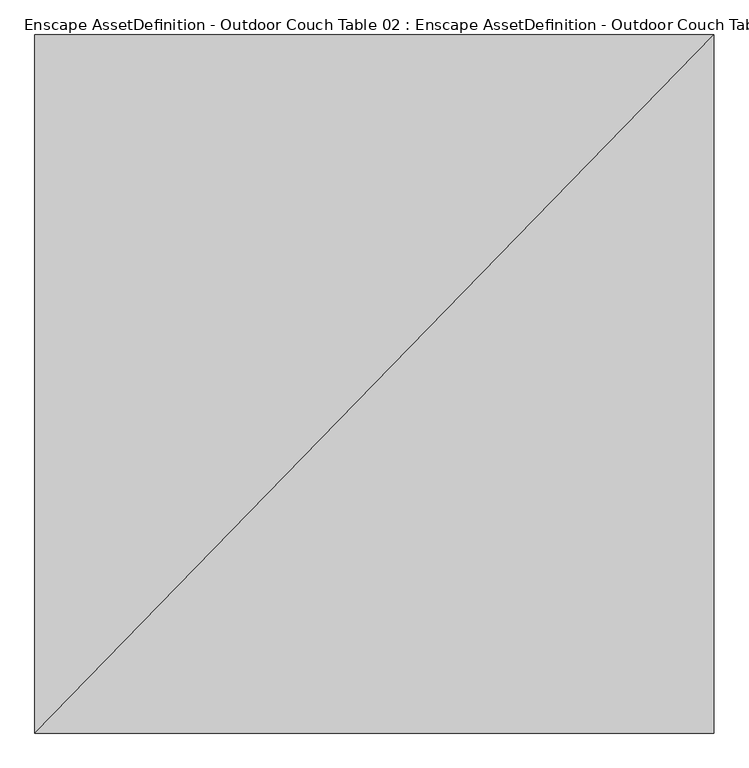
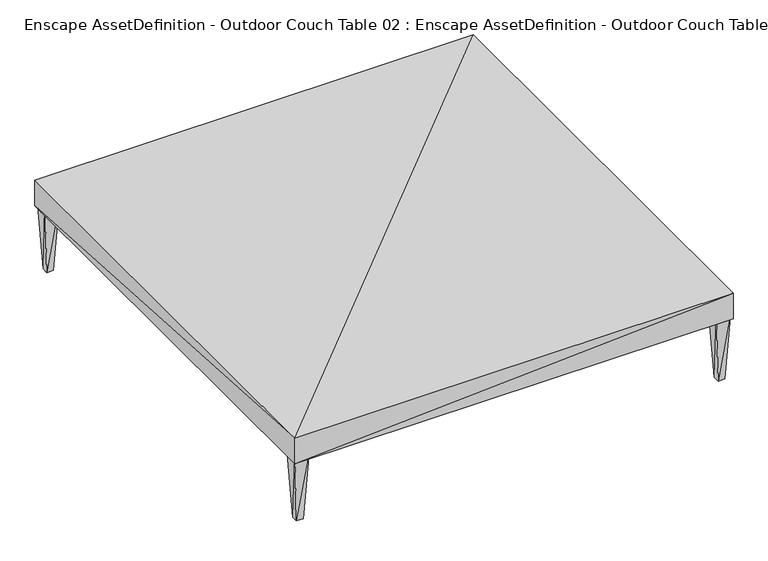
"""IFC4 building model written with IfcOpenShell, lengths in millimetres: geographic element geometry, Enscape AssetDefinition - Outdoor Couch Table 02 : Enscape AssetDefinition - Outdoor Couch Table 02."""

from ifc_helpers import new_model, si_unit, origin, place, context, project, spatial, faceted_brep, source, transform, mapped, element, save


def enscape_assetdefinition_outdoor_couch_table_02_enscape_a96dd87a(model_context):
    return source(origin(), model_context, "Body", "Brep", [
        faceted_brep([(594.6840644, -608.3918214, 176.775828), (-589.2454982, -608.3918214, 176.775828), (594.6840644, 608.238399, 176.775828), (-589.2454982, -608.3918214, 249.9999106), (594.6840644, -608.3918214, 249.9999106), (-589.2454982, 608.2383394, 176.775828), (594.6840644, 608.238399, 249.9999106), (-589.2454982, 608.2383394, 249.9999106)], [[[0, 1, 2]], [[3, 1, 4]], [[2, 1, 5]], [[4, 1, 0]], [[3, 5, 1]], [[6, 2, 7]], [[6, 0, 2]], [[7, 2, 5]], [[4, 0, 6]], [[6, 3, 4]], [[7, 3, 6]], [[7, 5, 3]]]),
        faceted_brep([(581.2490582, -592.2569036, 0.0), (563.3015633, -592.2569036, 0.0), (581.2490582, -575.114429, 0.0), (552.9852509, -602.1104455, 194.235757), (591.5653706, -602.1104455, 194.235757), (563.3015633, -575.114429, 0.0), (591.5653706, -565.2607679, 194.235757), (552.9852509, -565.2607679, 194.235757)], [[[0, 1, 2]], [[3, 1, 4]], [[2, 1, 5]], [[4, 1, 0]], [[3, 5, 1]], [[6, 2, 7]], [[6, 0, 2]], [[7, 2, 5]], [[4, 0, 6]], [[6, 3, 4]], [[7, 3, 6]], [[7, 5, 3]]]),
        faceted_brep([(581.2490582, 576.5300989, 0.0), (563.3015633, 576.5300989, 0.0), (581.2490582, 593.6726332, 0.0), (552.9852509, 566.6765571, 194.235757), (591.5653706, 566.6765571, 194.235757), (563.3015633, 593.6726332, 0.0), (591.5653706, 603.5262346, 194.235757), (552.9852509, 603.5262346, 194.235757)], [[[0, 1, 2]], [[3, 1, 4]], [[2, 1, 5]], [[4, 1, 0]], [[3, 5, 1]], [[6, 2, 7]], [[6, 0, 2]], [[7, 2, 5]], [[4, 0, 6]], [[6, 3, 4]], [[7, 3, 6]], [[7, 5, 3]]]),
        faceted_brep([(-557.7409267, -592.2569036, 0.0), (-575.6884217, -592.2569036, 0.0), (-557.7409267, -575.114429, 0.0), (-586.004734, -602.1104455, 194.235757), (-547.4246144, -602.1104455, 194.235757), (-575.6884217, -575.114429, 0.0), (-547.4246144, -565.2607679, 194.235757), (-586.004734, -565.2607679, 194.235757)], [[[0, 1, 2]], [[3, 1, 4]], [[2, 1, 5]], [[4, 1, 0]], [[3, 5, 1]], [[6, 2, 7]], [[6, 0, 2]], [[7, 2, 5]], [[4, 0, 6]], [[6, 3, 4]], [[7, 3, 6]], [[7, 5, 3]]]),
        faceted_brep([(-557.7409267, 576.5300989, 0.0), (-575.6884217, 576.5300989, 0.0), (-557.7409267, 593.6726332, 0.0), (-586.004734, 566.6765571, 194.235757), (-547.4246144, 566.6765571, 194.235757), (-575.6884217, 593.6726332, 0.0), (-547.4246144, 603.5262346, 194.235757), (-586.004734, 603.5262346, 194.235757)], [[[0, 1, 2]], [[3, 1, 4]], [[2, 1, 5]], [[4, 1, 0]], [[3, 5, 1]], [[6, 2, 7]], [[6, 0, 2]], [[7, 2, 5]], [[4, 0, 6]], [[6, 3, 4]], [[7, 3, 6]], [[7, 5, 3]]]),
    ])


if __name__ == "__main__":
    model = new_model("IFC4")
    model_context = context("Model", 3, world=origin())
    ifc_project = project(units=[si_unit("LENGTHUNIT", "METRE", prefix="MILLI")], contexts=[model_context])
    site = spatial("IfcSite", under=ifc_project)
    building = spatial("IfcBuilding", under=site)
    placement = place(None, origin())
    enscape_assetdefinition_outdoor_couch_table_02_enscape_shape = enscape_assetdefinition_outdoor_couch_table_02_enscape_a96dd87a(model_context)
    element("IfcGeographicElement", 1, ObjectType="Enscape AssetDefinition - Outdoor Couch Table 02 : Enscape AssetDefinition - Outdoor Couch Table 02", at=placement, inside=building, context=model_context, shape_type="MappedRepresentation", body=[
        mapped(enscape_assetdefinition_outdoor_couch_table_02_enscape_shape, transform((0.0, 0.0, 0.0), x_axis=(1.0, 0.0, 0.0), y_axis=(0.0, 1.0, 0.0), z_axis=(0.0, 0.0, 1.0))),
    ])
    save(model, "model.ifc")
